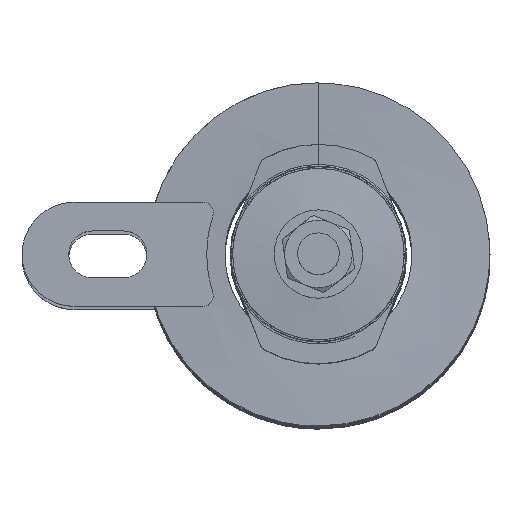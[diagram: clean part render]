
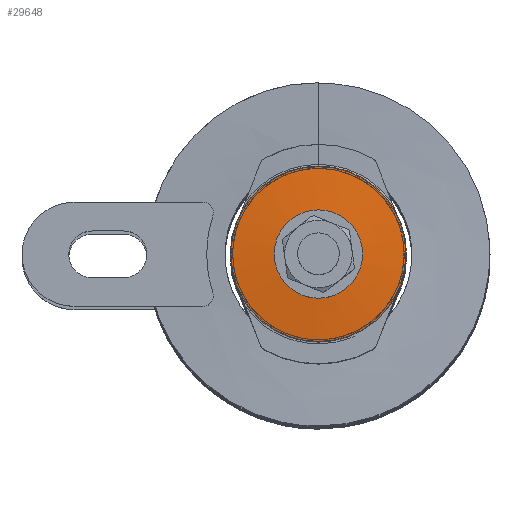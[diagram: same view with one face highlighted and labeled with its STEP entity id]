
A CAD part, top view. The second image highlights one B-rep face of the part: STEP entity #29648.
In plain terms, the highlighted conical face has half-angle 85 degrees and reference radius 11.61 mm.
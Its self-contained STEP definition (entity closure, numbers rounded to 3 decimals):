
#102=CONICAL_SURFACE('',#30971,11.61,1.484);
#161=CIRCLE('',#30965,6.281);
#164=CIRCLE('',#30970,16.94);
#3780=FACE_OUTER_BOUND('',#5298,.T.);
#5298=EDGE_LOOP('',(#27252,#27253,#27254,#27255));
#9707=LINE('',#125955,#10982);
#10982=VECTOR('',#34450,11.61);
#13929=VERTEX_POINT('',#125941);
#13932=VERTEX_POINT('',#125951);
#18370=EDGE_CURVE('',#13929,#13929,#161,.T.);
#18375=EDGE_CURVE('',#13932,#13932,#164,.T.);
#18377=EDGE_CURVE('',#13929,#13932,#9707,.T.);
#27252=ORIENTED_EDGE('',*,*,#18370,.F.);
#27253=ORIENTED_EDGE('',*,*,#18377,.T.);
#27254=ORIENTED_EDGE('',*,*,#18375,.T.);
#27255=ORIENTED_EDGE('',*,*,#18377,.F.);
#29648=ADVANCED_FACE('',(#3780),#102,.T.);
#30965=AXIS2_PLACEMENT_3D('',#125942,#34433,#34434);
#30970=AXIS2_PLACEMENT_3D('',#125952,#34445,#34446);
#30971=AXIS2_PLACEMENT_3D('',#125954,#34448,#34449);
#34433=DIRECTION('center_axis',(0.,1.,0.));
#34434=DIRECTION('ref_axis',(1.,0.,0.));
#34445=DIRECTION('center_axis',(0.,1.,0.));
#34446=DIRECTION('ref_axis',(1.,0.,0.));
#34448=DIRECTION('center_axis',(0.,-1.,0.));
#34449=DIRECTION('ref_axis',(0.,0.,1.));
#34450=DIRECTION('',(0.,-0.087,-0.996));
#125941=CARTESIAN_POINT('',(0.,1.494,-12.431));
#125942=CARTESIAN_POINT('Origin',(0.,1.494,-6.15));
#125951=CARTESIAN_POINT('',(0.,0.562,-23.09));
#125952=CARTESIAN_POINT('Origin',(0.,0.562,-6.15));
#125954=CARTESIAN_POINT('Origin',(0.,1.028,-6.15));
#125955=CARTESIAN_POINT('',(0.,1.028,-17.76));
